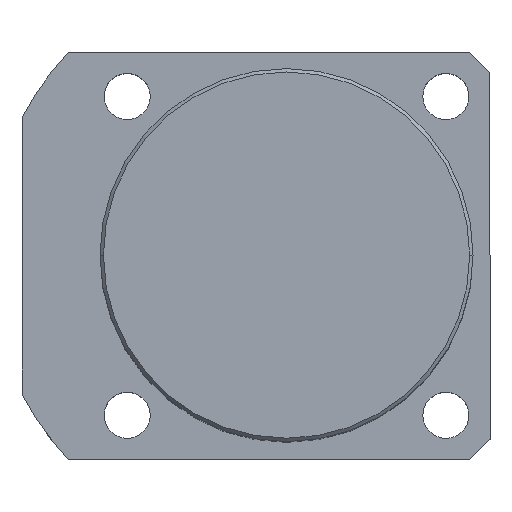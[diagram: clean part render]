
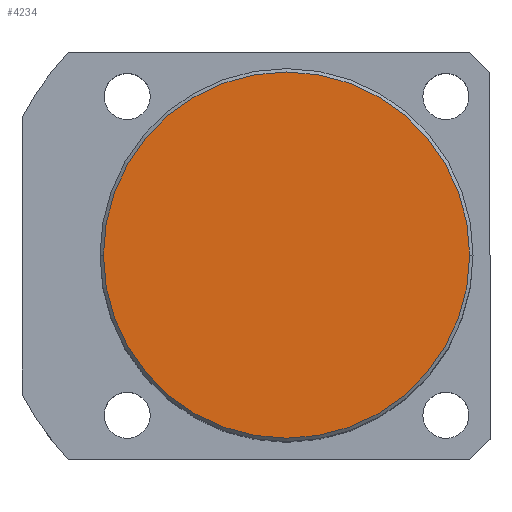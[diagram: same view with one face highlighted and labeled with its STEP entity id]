
A CAD part, top view. The second image highlights one B-rep face of the part: STEP entity #4234.
In plain terms, the highlighted planar face has unit normal (0, 0, 1).
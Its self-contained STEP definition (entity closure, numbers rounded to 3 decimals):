
#27 = DIRECTION ( 'NONE',  ( 0., 0., 1. ) ) ;
#170 = CIRCLE ( 'NONE', #935, 27. ) ;
#810 = ORIENTED_EDGE ( 'NONE', *, *, #2786, .T. ) ;
#935 = AXIS2_PLACEMENT_3D ( 'NONE', #4610, #2240, #5003 ) ;
#1126 = CIRCLE ( 'NONE', #1383, 27. ) ;
#1192 = CARTESIAN_POINT ( 'NONE',  ( 0., 0., 75. ) ) ;
#1383 = AXIS2_PLACEMENT_3D ( 'NONE', #2430, #27, #2842 ) ;
#1564 = VERTEX_POINT ( 'NONE', #4181 ) ;
#1717 = FACE_OUTER_BOUND ( 'NONE', #2849, .T. ) ;
#2015 = DIRECTION ( 'NONE',  ( 1., 0., 0. ) ) ;
#2227 = EDGE_CURVE ( 'NONE', #1564, #2445, #170, .T. ) ;
#2240 = DIRECTION ( 'NONE',  ( 0., 0., 1. ) ) ;
#2430 = CARTESIAN_POINT ( 'NONE',  ( 0., 0., 75. ) ) ;
#2445 = VERTEX_POINT ( 'NONE', #4990 ) ;
#2786 = EDGE_CURVE ( 'NONE', #2445, #1564, #1126, .T. ) ;
#2803 = PLANE ( 'NONE',  #3804 ) ;
#2842 = DIRECTION ( 'NONE',  ( 1., 0., 0. ) ) ;
#2849 = EDGE_LOOP ( 'NONE', ( #3140, #810 ) ) ;
#3140 = ORIENTED_EDGE ( 'NONE', *, *, #2227, .T. ) ;
#3804 = AXIS2_PLACEMENT_3D ( 'NONE', #1192, #4370, #2015 ) ;
#4181 = CARTESIAN_POINT ( 'NONE',  ( -27., 0., 75. ) ) ;
#4234 = ADVANCED_FACE ( 'NONE', ( #1717 ), #2803, .T. ) ;
#4370 = DIRECTION ( 'NONE',  ( 0., 0., 1. ) ) ;
#4610 = CARTESIAN_POINT ( 'NONE',  ( 0., 0., 75. ) ) ;
#4990 = CARTESIAN_POINT ( 'NONE',  ( 27., 0., 75. ) ) ;
#5003 = DIRECTION ( 'NONE',  ( 1., 0., 0. ) ) ;
